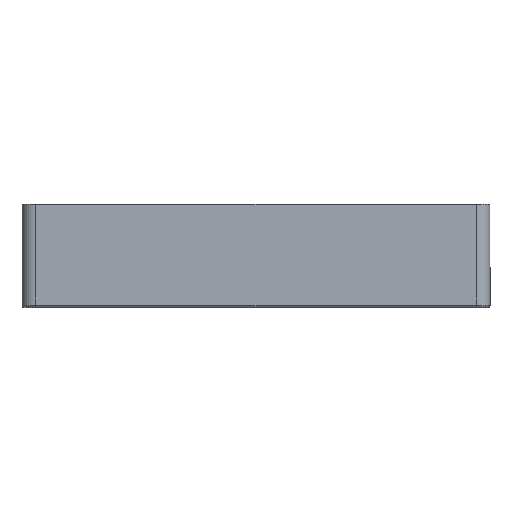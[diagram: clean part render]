
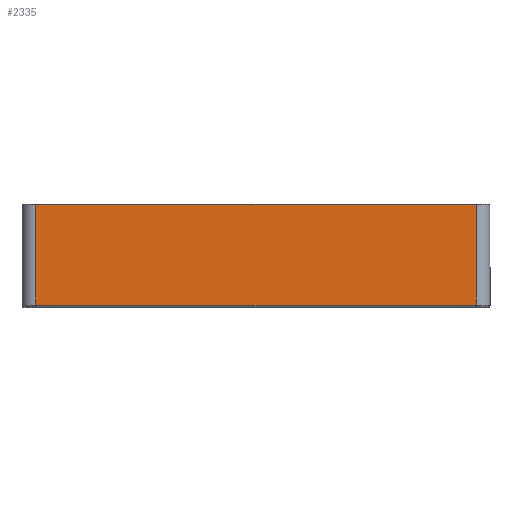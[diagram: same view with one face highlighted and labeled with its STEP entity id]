
A CAD part, left-side view. The second image highlights one B-rep face of the part: STEP entity #2335.
In plain terms, the highlighted planar face has unit normal (-1, 0, 0).
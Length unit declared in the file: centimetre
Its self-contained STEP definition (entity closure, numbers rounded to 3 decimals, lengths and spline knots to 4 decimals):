
#470=FACE_OUTER_BOUND($,#715,.T.);
#715=EDGE_LOOP($,(#1871,#1872,#1873,#1874));
#883=LINE($,#3946,#1019);
#884=LINE($,#3948,#1020);
#885=LINE($,#3950,#1021);
#886=LINE($,#3951,#1022);
#1019=VECTOR($,#3195,9.56);
#1020=VECTOR($,#3196,2.19);
#1021=VECTOR($,#3197,9.56);
#1022=VECTOR($,#3198,2.19);
#1245=VERTEX_POINT($,#3944);
#1246=VERTEX_POINT($,#3945);
#1247=VERTEX_POINT($,#3947);
#1248=VERTEX_POINT($,#3949);
#1484=EDGE_CURVE($,#1245,#1246,#883,.F.);
#1485=EDGE_CURVE($,#1247,#1245,#884,.T.);
#1486=EDGE_CURVE($,#1248,#1247,#885,.T.);
#1487=EDGE_CURVE($,#1246,#1248,#886,.T.);
#1871=ORIENTED_EDGE($,*,*,#1484,.F.);
#1872=ORIENTED_EDGE($,*,*,#1485,.F.);
#1873=ORIENTED_EDGE($,*,*,#1486,.F.);
#1874=ORIENTED_EDGE($,*,*,#1487,.F.);
#2214=PLANE($,#2606);
#2335=ADVANCED_FACE($,(#470),#2214,.F.);
#2606=AXIS2_PLACEMENT_3D($,#3943,#3193,#3194);
#3193=DIRECTION('center_axis',(1.,0.,0.));
#3194=DIRECTION('ref_axis',(0.,0.,-1.));
#3195=DIRECTION($,(0.,1.,0.));
#3196=DIRECTION($,(0.,0.,1.));
#3197=DIRECTION($,(0.,1.,0.));
#3198=DIRECTION($,(0.,0.,-1.));
#3943=CARTESIAN_POINT('Origin',(-22.856,-89.973,-0.0295));
#3944=CARTESIAN_POINT('',(-22.856,-85.193,1.3305));
#3945=CARTESIAN_POINT('',(-22.856,-94.753,1.3305));
#3946=CARTESIAN_POINT($,(-22.856,-89.973,1.3305));
#3947=CARTESIAN_POINT('',(-22.856,-85.193,-0.8595));
#3948=CARTESIAN_POINT($,(-22.856,-85.193,-0.0295));
#3949=CARTESIAN_POINT('',(-22.856,-94.753,-0.8595));
#3950=CARTESIAN_POINT($,(-22.856,-89.973,-0.8595));
#3951=CARTESIAN_POINT($,(-22.856,-94.753,-0.0295));
